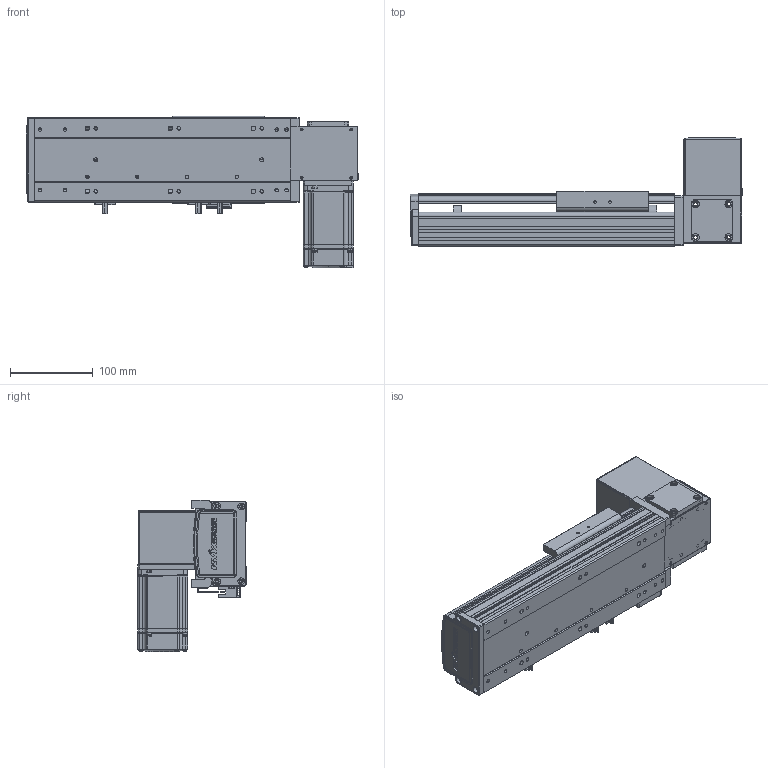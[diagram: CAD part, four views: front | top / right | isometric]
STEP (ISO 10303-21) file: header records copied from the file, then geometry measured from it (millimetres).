
FILE_DESCRIPTION (( 'STEP AP203' ), '1' );
FILE_NAME ('RY100-T-300-UL.SLDASM_100.step', '2024-04-25T08:38:56', ( '盈信电脑' ), ( '东莞市道滘镇水果街19号' ), 'SwSTEP 2.0', 'SolidWorks 2016', '' );
FILE_SCHEMA (( 'CONFIG_CONTROL_DESIGN' ));
Length unit declared in the file: millimetre
Products named in the file (15): RY100-T-300-RK倰第菁釱_100; 滅袉蝶18-10; RY100-T左右折电机安装板; 1; 覜茼ん672; RY100-T翋肮祭謫裔啣2; RY100綴裔啣; RY100俋离覜茼え; RY100-T粣創揤踡裔; RY80-T肮祭謫奻殏俋欶; RY100-T翋肮祭謫裔啣; RY100-T肮祭謫翋盓傅釱; RY100-T-300-UL.SLDASM_100; RY100-T肮祭謫臏賑輸; RY100-T-300-RK倰第奻裔_100
Assembly tree (17 placements, depth 2):
  RY100-T-300-UL.SLDASM_100
    RY100-T-300-RK倰第菁釱_100
    RY100-T-300-RK倰第奻裔_100
    RY100-T肮祭謫臏賑輸
    RY100綴裔啣
    覜茼ん672  x3
    RY100俋离覜茼え
    RY100-T肮祭謫翋盓傅釱
    滅袉蝶18-10  x2
    RY100-T翋肮祭謫裔啣2
    RY100-T翋肮祭謫裔啣
    1
    RY100-T左右折电机安装板
    RY80-T肮祭謫奻殏俋欶
    RY100-T粣創揤踡裔
Bounding box: 400 x 130.5 x 182.5 mm (x, y, z)
Volume: 1191905.8 mm3; surface area: 441190.3 mm2
Topology: 17 solids, 17 shells, 2083 faces, 5741 edges, 3723 vertices
Faces by surface type: plane 1187, cylinder 695, cone 123, bspline 78
Entity records: 65905 total; most frequent: CARTESIAN_POINT 15567, ORIENTED_EDGE 10314, DIRECTION 9839, EDGE_CURVE 5157, LINE 3451, VECTOR 3451, VERTEX_POINT 3391, AXIS2_PLACEMENT_3D 3194
